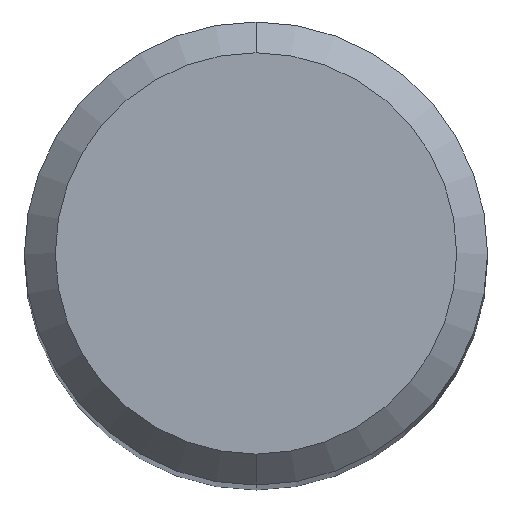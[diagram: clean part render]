
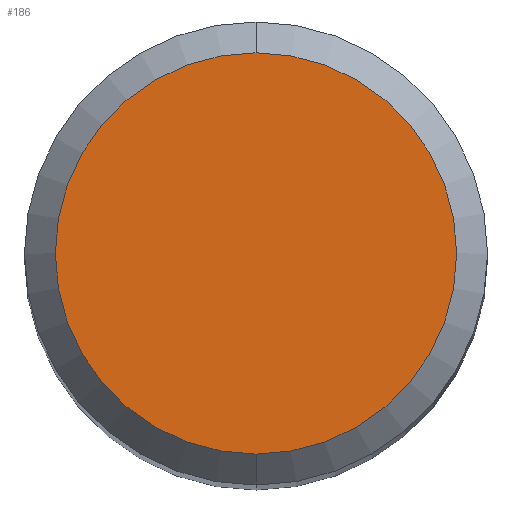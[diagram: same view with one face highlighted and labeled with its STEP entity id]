
A CAD part, top view. The second image highlights one B-rep face of the part: STEP entity #186.
In plain terms, the highlighted free-form (B-spline) face has degree [1, 1] with [2, 2] control points.
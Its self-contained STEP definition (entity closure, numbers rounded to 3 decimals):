
#13=CARTESIAN_POINT('',(0.,0.,0.));
#14=DIRECTION('',(0.,0.,1.));
#15=DIRECTION('',(0.,1.,0.));
#16=AXIS2_PLACEMENT_3D('',#13,#14,#15);
#18=CARTESIAN_POINT('',(0.,0.,0.));
#19=DIRECTION('',(0.,0.,-1.));
#20=DIRECTION('',(0.,1.,0.));
#21=AXIS2_PLACEMENT_3D('',#18,#19,#20);
#148=CARTESIAN_POINT('',(0.,2.6,0.));
#150=VERTEX_POINT('',#148);
#152=CARTESIAN_POINT('',(0.,-2.6,0.));
#154=VERTEX_POINT('',#152);
#175=CARTESIAN_POINT('',(2.704,2.704,0.));
#176=CARTESIAN_POINT('',(-2.704,2.704,0.));
#177=CARTESIAN_POINT('',(2.704,-2.704,0.));
#178=CARTESIAN_POINT('',(-2.704,-2.704,0.));
#179=B_SPLINE_SURFACE_WITH_KNOTS('',1,1,((#175,#176),(#177,#178)),.UNSPECIFIED.,
.F.,.F.,.F.,(2,2),(2,2),(-2.704,2.704),(-2.704,2.704),
.UNSPECIFIED.);
#181=ORIENTED_EDGE('',*,*,#180,.F.);
#183=ORIENTED_EDGE('',*,*,#182,.T.);
#184=EDGE_LOOP('',(#181,#183));
#185=FACE_OUTER_BOUND('',#184,.F.);
#17=CIRCLE('',#16,2.6);
#22=CIRCLE('',#21,2.6);
#180=EDGE_CURVE('',#150,#154,#17,.T.);
#182=EDGE_CURVE('',#150,#154,#22,.T.);
#186=ADVANCED_FACE('',(#185),#179,.F.);
